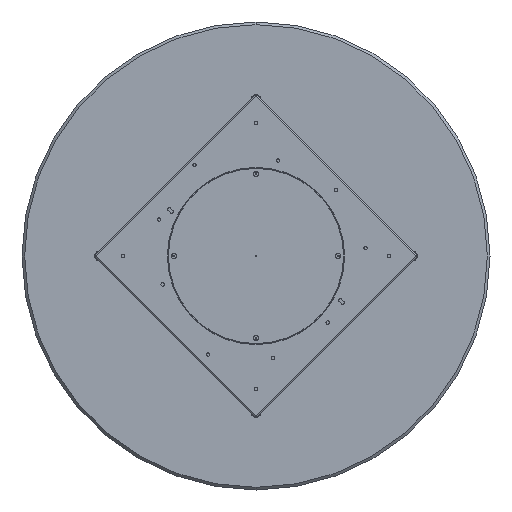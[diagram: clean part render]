
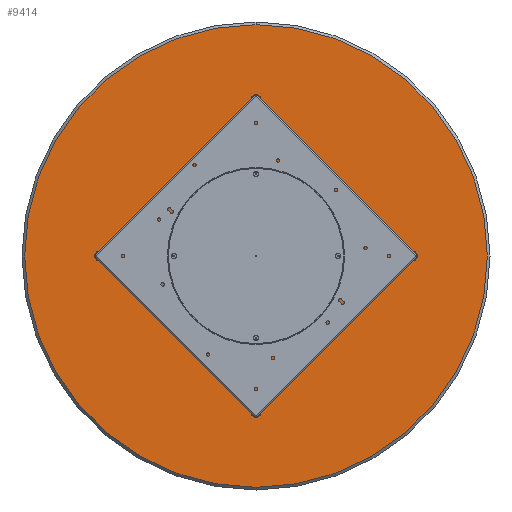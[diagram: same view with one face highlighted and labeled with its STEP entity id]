
A CAD part, front view. The second image highlights one B-rep face of the part: STEP entity #9414.
In plain terms, the highlighted planar face has unit normal (0, -1, 0).
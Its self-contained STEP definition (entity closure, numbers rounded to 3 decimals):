
#497 = ORIENTED_EDGE ( 'NONE', *, *, #10571, .T. ) ;
#1260 = CARTESIAN_POINT ( 'NONE',  ( 0., 0., 0. ) ) ;
#2850 = EDGE_CURVE ( 'NONE', #10213, #15346, #9067, .T. ) ;
#3072 = DIRECTION ( 'NONE',  ( 0., 0., -1. ) ) ;
#3474 = DIRECTION ( 'NONE',  ( 0., -1., 0. ) ) ;
#4574 = FACE_OUTER_BOUND ( 'NONE', #11733, .T. ) ;
#6345 = DIRECTION ( 'NONE',  ( 0., -1., 0. ) ) ;
#7626 = CIRCLE ( 'NONE', #8890, 692. ) ;
#7806 = AXIS2_PLACEMENT_3D ( 'NONE', #1260, #3474, #8303 ) ;
#8303 = DIRECTION ( 'NONE',  ( 0., 0., -1. ) ) ;
#8890 = AXIS2_PLACEMENT_3D ( 'NONE', #12504, #6345, #3072 ) ;
#9067 = CIRCLE ( 'NONE', #7806, 692. ) ;
#9401 = PLANE ( 'NONE',  #10679 ) ;
#9414 = ADVANCED_FACE ( 'NONE', ( #4574 ), #9401, .T. ) ;
#10213 = VERTEX_POINT ( 'NONE', #11802 ) ;
#10241 = CARTESIAN_POINT ( 'NONE',  ( 0., 0., -692. ) ) ;
#10571 = EDGE_CURVE ( 'NONE', #15346, #10213, #7626, .T. ) ;
#10679 = AXIS2_PLACEMENT_3D ( 'NONE', #14235, #13040, #10751 ) ;
#10751 = DIRECTION ( 'NONE',  ( 0., 0., -1. ) ) ;
#11733 = EDGE_LOOP ( 'NONE', ( #12896, #497 ) ) ;
#11802 = CARTESIAN_POINT ( 'NONE',  ( 0., 0., 692. ) ) ;
#12504 = CARTESIAN_POINT ( 'NONE',  ( 0., 0., 0. ) ) ;
#12896 = ORIENTED_EDGE ( 'NONE', *, *, #2850, .T. ) ;
#13040 = DIRECTION ( 'NONE',  ( 0., -1., 0. ) ) ;
#14235 = CARTESIAN_POINT ( 'NONE',  ( 0., 0., 0. ) ) ;
#15346 = VERTEX_POINT ( 'NONE', #10241 ) ;
